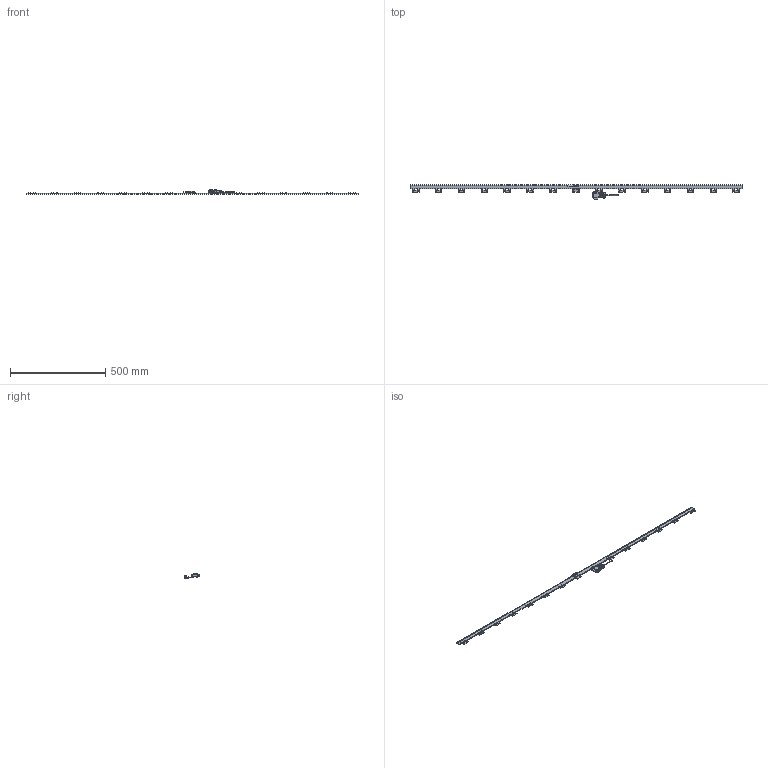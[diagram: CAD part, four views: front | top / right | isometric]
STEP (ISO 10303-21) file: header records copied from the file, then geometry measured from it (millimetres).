
FILE_DESCRIPTION(('Creo Elements/Direct Modeling STEP Export'),'2;1');
FILE_NAME('ST46EZA-1700A.stp','2017-09-07T 9:18:47',(''),(''),'Creo Elements/Direct Modeling STEP processor for AP214 (Solid Model)','Creo Elements/Direct Modeling 18.1B 29-Sep-2012 (C) Parametric Technology GmbH','');
FILE_SCHEMA(('AUTOMOTIVE_DESIGN { 1 0 10303 214 1 1 1 1 }'));
Products named in the file (4): IF_Unit; Detector_Head; Scale_1700; ST46EZA_1700A
Assembly tree (3 placements, depth 2):
  ST46EZA_1700A
    Scale_1700
    Detector_Head
    IF_Unit
Bounding box: 1740 x 78.25 x 21.95 mm (x, y, z)
Volume: 189350.3 mm3; surface area: 124625.3 mm2
Topology: 2 solids, 7 shells, 2928 faces, 7922 edges, 5168 vertices
Faces by surface type: plane 1763, cylinder 989, extrusion 63, cone 50, torus 30, bspline 29, revolution 4
Entity records: 96294 total; most frequent: CARTESIAN_POINT 23606, ORIENTED_EDGE 15835, DIRECTION 13921, EDGE_CURVE 7922, VECTOR 5279, LINE 5251, VERTEX_POINT 5168, AXIS2_PLACEMENT_3D 4318
